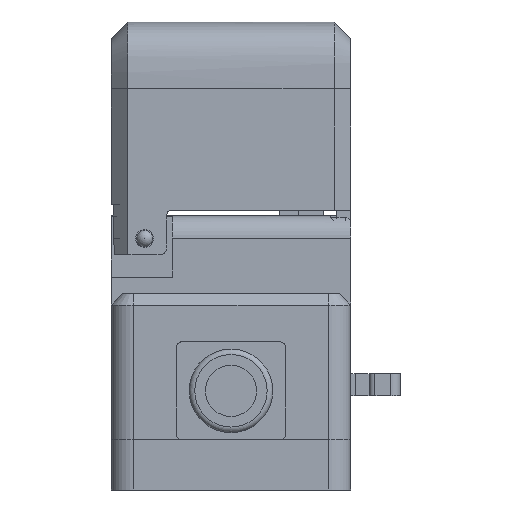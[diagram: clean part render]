
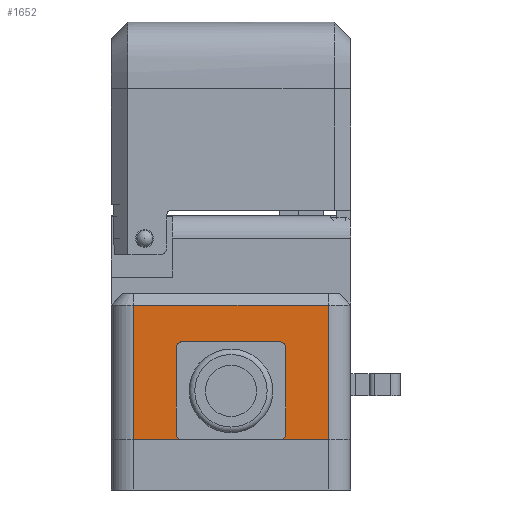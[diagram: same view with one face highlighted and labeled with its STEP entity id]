
A CAD part, left-side view. The second image highlights one B-rep face of the part: STEP entity #1652.
In plain terms, the highlighted planar face has unit normal (-1, 0, 0).
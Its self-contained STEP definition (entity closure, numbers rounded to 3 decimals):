
#1652=ADVANCED_FACE('',(#3925),#2875,.T.);
#2875=PLANE('',#24445);
#3925=FACE_OUTER_BOUND('',#5273,.T.);
#5273=EDGE_LOOP('',(#10486,#10487,#10488,#10489));
#10486=ORIENTED_EDGE('',*,*,#16663,.F.);
#10487=ORIENTED_EDGE('',*,*,#16780,.T.);
#10488=ORIENTED_EDGE('',*,*,#16781,.T.);
#10489=ORIENTED_EDGE('',*,*,#16782,.T.);
#13739=VERTEX_POINT('',#35536);
#13740=VERTEX_POINT('',#35538);
#13833=VERTEX_POINT('',#35765);
#13834=VERTEX_POINT('',#35767);
#16663=EDGE_CURVE('',#13739,#13740,#19868,.T.);
#16780=EDGE_CURVE('',#13739,#13833,#19953,.T.);
#16781=EDGE_CURVE('',#13833,#13834,#19954,.T.);
#16782=EDGE_CURVE('',#13834,#13740,#19955,.T.);
#19868=LINE('',#35537,#22858);
#19953=LINE('',#35764,#22943);
#19954=LINE('',#35766,#22944);
#19955=LINE('',#35768,#22945);
#22858=VECTOR('',#29064,1.);
#22943=VECTOR('',#29247,1.);
#22944=VECTOR('',#29248,1.);
#22945=VECTOR('',#29249,1.);
#24445=AXIS2_PLACEMENT_3D('',#35769,#29250,#29251);
#29064=DIRECTION('',(0.,1.,0.));
#29247=DIRECTION('',(0.,0.,1.));
#29248=DIRECTION('',(0.,1.,0.));
#29249=DIRECTION('',(0.,0.,-1.));
#29250=DIRECTION('',(-1.,0.,0.));
#29251=DIRECTION('',(0.,0.,1.));
#35536=CARTESIAN_POINT('',(48.215,51.501,-23.644));
#35537=CARTESIAN_POINT('',(48.215,68.751,-23.644));
#35538=CARTESIAN_POINT('',(48.215,69.001,-23.644));
#35764=CARTESIAN_POINT('',(48.215,51.501,-9.144));
#35765=CARTESIAN_POINT('',(48.215,51.501,-11.544));
#35766=CARTESIAN_POINT('',(48.215,51.501,-11.544));
#35767=CARTESIAN_POINT('',(48.215,69.001,-11.544));
#35768=CARTESIAN_POINT('',(48.215,69.001,-9.144));
#35769=CARTESIAN_POINT('',(48.215,51.501,-9.144));
